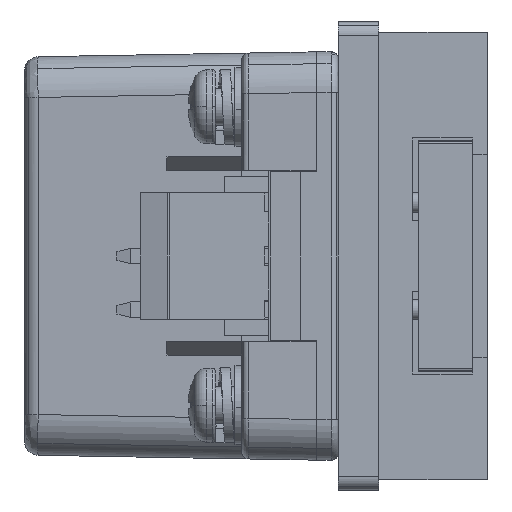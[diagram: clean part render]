
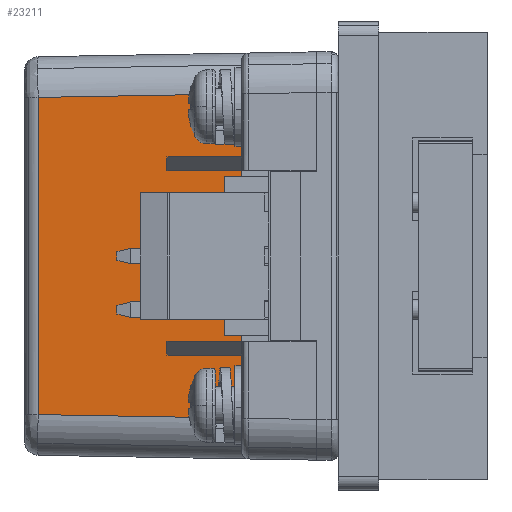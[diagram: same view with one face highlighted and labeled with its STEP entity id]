
A CAD part, left-side view. The second image highlights one B-rep face of the part: STEP entity #23211.
In plain terms, the highlighted planar face has unit normal (-1, 0.018, 0) as drawn and (-1, 0, -0.017) by its records, which use the part's own axes.
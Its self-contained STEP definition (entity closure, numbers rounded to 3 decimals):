
#114 = VERTEX_POINT ( 'NONE', #31274 ) ;
#222 = CARTESIAN_POINT ( 'NONE',  ( -30.652, -8.39, 5.341 ) ) ;
#1038 = CARTESIAN_POINT ( 'NONE',  ( -30.668, 15.508, 6.244 ) ) ;
#1989 = VECTOR ( 'NONE', #47185, 1000. ) ;
#3148 = VECTOR ( 'NONE', #17346, 1000. ) ;
#3270 = CARTESIAN_POINT ( 'NONE',  ( -30.665, 18.601, 6.104 ) ) ;
#3324 = EDGE_CURVE ( 'NONE', #19671, #58522, #30646, .T. ) ;
#3635 = VERTEX_POINT ( 'NONE', #13064 ) ;
#3899 = VERTEX_POINT ( 'NONE', #11799 ) ;
#4274 = DIRECTION ( 'NONE',  ( 0.017, 0., -1. ) ) ;
#6206 = DIRECTION ( 'NONE',  ( 0., -1., 0. ) ) ;
#7593 = PLANE ( 'NONE',  #20316 ) ;
#8427 = ORIENTED_EDGE ( 'NONE', *, *, #58898, .F. ) ;
#9134 = LINE ( 'NONE', #38135, #1989 ) ;
#9238 = CARTESIAN_POINT ( 'NONE',  ( -30.665, 11.076, 6.104 ) ) ;
#9853 = VECTOR ( 'NONE', #22592, 1000. ) ;
#10090 = EDGE_CURVE ( 'NONE', #3899, #114, #9134, .T. ) ;
#10974 = VERTEX_POINT ( 'NONE', #25574 ) ;
#11799 = CARTESIAN_POINT ( 'NONE',  ( -30.569, 9.851, 0.592 ) ) ;
#11892 = EDGE_CURVE ( 'NONE', #40834, #3635, #48409, .T. ) ;
#12288 = LINE ( 'NONE', #41273, #45483 ) ;
#12613 = ORIENTED_EDGE ( 'NONE', *, *, #16393, .T. ) ;
#13064 = CARTESIAN_POINT ( 'NONE',  ( -30.665, 15.506, 6.104 ) ) ;
#13138 = ORIENTED_EDGE ( 'NONE', *, *, #37122, .F. ) ;
#13250 = ORIENTED_EDGE ( 'NONE', *, *, #11892, .F. ) ;
#13292 = DIRECTION ( 'NONE',  ( 0., -1., 0. ) ) ;
#14705 = DIRECTION ( 'NONE',  ( -0.017, 0.017, 1. ) ) ;
#16393 = EDGE_CURVE ( 'NONE', #49558, #19671, #61645, .T. ) ;
#16634 = DIRECTION ( 'NONE',  ( 0., 1., 0. ) ) ;
#16898 = DIRECTION ( 'NONE',  ( 0., -1., 0. ) ) ;
#17146 = EDGE_CURVE ( 'NONE', #49558, #32967, #27592, .T. ) ;
#17228 = CARTESIAN_POINT ( 'NONE',  ( -30.656, 9.851, 5.561 ) ) ;
#17346 = DIRECTION ( 'NONE',  ( -0.017, 0., 1. ) ) ;
#18266 = LINE ( 'NONE', #50473, #3148 ) ;
#19671 = VERTEX_POINT ( 'NONE', #60169 ) ;
#20223 = LINE ( 'NONE', #29867, #22924 ) ;
#20316 = AXIS2_PLACEMENT_3D ( 'NONE', #3270, #54697, #46257 ) ;
#20352 = ORIENTED_EDGE ( 'NONE', *, *, #54946, .T. ) ;
#22183 = LINE ( 'NONE', #36864, #38643 ) ;
#22592 = DIRECTION ( 'NONE',  ( 0.017, 0.017, -1. ) ) ;
#22827 = DIRECTION ( 'NONE',  ( 0., 1., 0. ) ) ;
#22899 = CARTESIAN_POINT ( 'NONE',  ( -30.665, 10.851, 6.104 ) ) ;
#22924 = VECTOR ( 'NONE', #6206, 1000. ) ;
#23211 = ADVANCED_FACE ( 'NONE', ( #35971 ), #7593, .T. ) ;
#23527 = CARTESIAN_POINT ( 'NONE',  ( -30.656, -3.749, 5.561 ) ) ;
#23847 = LINE ( 'NONE', #222, #9853 ) ;
#25574 = CARTESIAN_POINT ( 'NONE',  ( -30.403, -8.141, -8.913 ) ) ;
#25938 = ORIENTED_EDGE ( 'NONE', *, *, #49703, .F. ) ;
#26066 = CARTESIAN_POINT ( 'NONE',  ( -30.569, -2.749, 0.592 ) ) ;
#27190 = DIRECTION ( 'NONE',  ( -0.017, 0., 1. ) ) ;
#27592 = LINE ( 'NONE', #9238, #54029 ) ;
#28852 = EDGE_CURVE ( 'NONE', #3635, #32623, #22183, .T. ) ;
#29359 = CARTESIAN_POINT ( 'NONE',  ( -30.665, -2.749, 6.104 ) ) ;
#29867 = CARTESIAN_POINT ( 'NONE',  ( -30.665, 11.076, 6.104 ) ) ;
#30646 = LINE ( 'NONE', #59384, #40505 ) ;
#31274 = CARTESIAN_POINT ( 'NONE',  ( -30.569, 10.851, 0.592 ) ) ;
#31777 = ORIENTED_EDGE ( 'NONE', *, *, #50919, .T. ) ;
#32623 = VERTEX_POINT ( 'NONE', #22899 ) ;
#32967 = VERTEX_POINT ( 'NONE', #46273 ) ;
#34025 = VERTEX_POINT ( 'NONE', #29359 ) ;
#35010 = EDGE_CURVE ( 'NONE', #114, #32623, #12288, .T. ) ;
#35175 = ORIENTED_EDGE ( 'NONE', *, *, #28852, .F. ) ;
#35930 = EDGE_LOOP ( 'NONE', ( #13138, #8427, #56428, #12613, #37183, #31777, #25938, #20352, #43246, #51292, #35175, #13250 ) ) ;
#35971 = FACE_OUTER_BOUND ( 'NONE', #35930, .T. ) ;
#36290 = DIRECTION ( 'NONE',  ( 0.017, 0., -1. ) ) ;
#36864 = CARTESIAN_POINT ( 'NONE',  ( -30.665, 11.076, 6.104 ) ) ;
#37122 = EDGE_CURVE ( 'NONE', #10974, #40834, #55300, .T. ) ;
#37183 = ORIENTED_EDGE ( 'NONE', *, *, #3324, .T. ) ;
#38135 = CARTESIAN_POINT ( 'NONE',  ( -30.569, 14.226, 0.592 ) ) ;
#38643 = VECTOR ( 'NONE', #16898, 1000. ) ;
#39936 = VECTOR ( 'NONE', #4274, 1000. ) ;
#40505 = VECTOR ( 'NONE', #16634, 1000. ) ;
#40834 = VERTEX_POINT ( 'NONE', #52008 ) ;
#41273 = CARTESIAN_POINT ( 'NONE',  ( -30.656, 10.851, 5.561 ) ) ;
#43246 = ORIENTED_EDGE ( 'NONE', *, *, #10090, .T. ) ;
#45483 = VECTOR ( 'NONE', #27190, 1000. ) ;
#46257 = DIRECTION ( 'NONE',  ( -0.017, 0., 1. ) ) ;
#46273 = CARTESIAN_POINT ( 'NONE',  ( -30.665, -8.403, 6.104 ) ) ;
#47185 = DIRECTION ( 'NONE',  ( 0., 1., 0. ) ) ;
#48409 = LINE ( 'NONE', #1038, #57978 ) ;
#49558 = VERTEX_POINT ( 'NONE', #58109 ) ;
#49703 = EDGE_CURVE ( 'NONE', #52020, #34025, #20223, .T. ) ;
#50234 = VECTOR ( 'NONE', #36290, 1000. ) ;
#50473 = CARTESIAN_POINT ( 'NONE',  ( -30.656, -2.749, 5.561 ) ) ;
#50919 = EDGE_CURVE ( 'NONE', #58522, #34025, #18266, .T. ) ;
#51292 = ORIENTED_EDGE ( 'NONE', *, *, #35010, .T. ) ;
#52008 = CARTESIAN_POINT ( 'NONE',  ( -30.403, 15.244, -8.913 ) ) ;
#52020 = VERTEX_POINT ( 'NONE', #60076 ) ;
#54029 = VECTOR ( 'NONE', #13292, 1000. ) ;
#54697 = DIRECTION ( 'NONE',  ( -1., 0., -0.017 ) ) ;
#54946 = EDGE_CURVE ( 'NONE', #52020, #3899, #55625, .T. ) ;
#55300 = LINE ( 'NONE', #55926, #61616 ) ;
#55625 = LINE ( 'NONE', #17228, #50234 ) ;
#55926 = CARTESIAN_POINT ( 'NONE',  ( -30.403, 11.076, -8.913 ) ) ;
#56428 = ORIENTED_EDGE ( 'NONE', *, *, #17146, .F. ) ;
#57978 = VECTOR ( 'NONE', #14705, 1000. ) ;
#58109 = CARTESIAN_POINT ( 'NONE',  ( -30.665, -3.749, 6.104 ) ) ;
#58522 = VERTEX_POINT ( 'NONE', #26066 ) ;
#58898 = EDGE_CURVE ( 'NONE', #32967, #10974, #23847, .T. ) ;
#59384 = CARTESIAN_POINT ( 'NONE',  ( -30.569, 7.926, 0.592 ) ) ;
#60076 = CARTESIAN_POINT ( 'NONE',  ( -30.665, 9.851, 6.104 ) ) ;
#60169 = CARTESIAN_POINT ( 'NONE',  ( -30.569, -3.749, 0.592 ) ) ;
#61616 = VECTOR ( 'NONE', #22827, 1000. ) ;
#61645 = LINE ( 'NONE', #23527, #39936 ) ;
